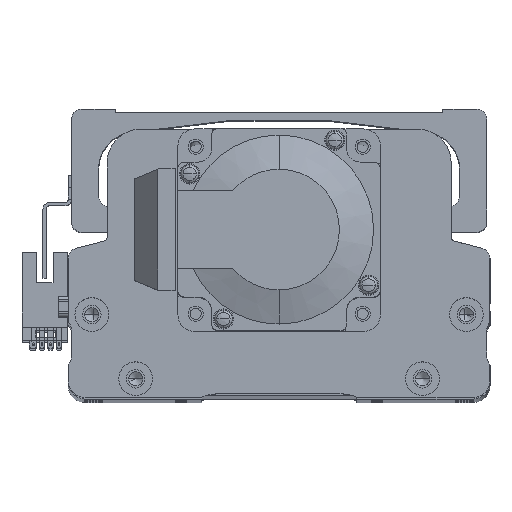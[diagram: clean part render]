
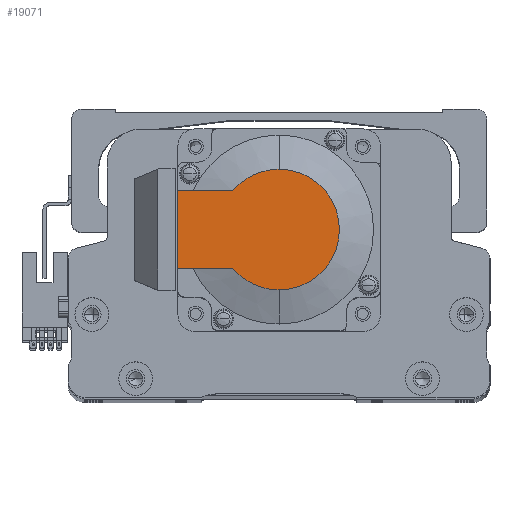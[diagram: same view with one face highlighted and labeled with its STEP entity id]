
A CAD part, top view. The second image highlights one B-rep face of the part: STEP entity #19071.
In plain terms, the highlighted planar face has unit normal (0, 0, 1) as drawn and (-1, 0, 0) by its records, which use the part's own axes.
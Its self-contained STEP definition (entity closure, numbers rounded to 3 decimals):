
#1207 = AXIS2_PLACEMENT_3D ( 'NONE', #45490, #21310, #49519 ) ;
#3587 = CARTESIAN_POINT ( 'NONE',  ( -118.5, 0., 17.881 ) ) ;
#4277 = CARTESIAN_POINT ( 'NONE',  ( -118.5, -8.941, 0. ) ) ;
#5439 = LINE ( 'NONE', #33340, #23163 ) ;
#6229 = CARTESIAN_POINT ( 'NONE',  ( -118.5, -8.941, -11.45 ) ) ;
#6823 = EDGE_CURVE ( 'NONE', #35407, #35357, #7950, .T. ) ;
#7950 = LINE ( 'NONE', #6229, #46500 ) ;
#8337 = DIRECTION ( 'NONE',  ( 0., 0., 1. ) ) ;
#9216 = DIRECTION ( 'NONE',  ( 0., -1., 0. ) ) ;
#10438 = EDGE_CURVE ( 'NONE', #35357, #41304, #43339, .T. ) ;
#12171 = EDGE_CURVE ( 'NONE', #20178, #42090, #41107, .T. ) ;
#12217 = PLANE ( 'NONE',  #49015 ) ;
#12611 = ORIENTED_EDGE ( 'NONE', *, *, #27460, .F. ) ;
#12698 = CARTESIAN_POINT ( 'NONE',  ( -118.5, 0., 0. ) ) ;
#14499 = CARTESIAN_POINT ( 'NONE',  ( -118.5, 30., 25. ) ) ;
#16789 = DIRECTION ( 'NONE',  ( 0., 0., -1. ) ) ;
#17146 = CARTESIAN_POINT ( 'NONE',  ( -118.5, 0., -17.881 ) ) ;
#17597 = EDGE_CURVE ( 'NONE', #22072, #42090, #5439, .T. ) ;
#18309 = EDGE_LOOP ( 'NONE', ( #44910, #38286, #47001, #35580, #21782, #12611 ) ) ;
#19071 = ADVANCED_FACE ( 'NONE', ( #36097 ), #12217, .T. ) ;
#20178 = VERTEX_POINT ( 'NONE', #3587 ) ;
#20376 = AXIS2_PLACEMENT_3D ( 'NONE', #45957, #21786, #49967 ) ;
#21310 = DIRECTION ( 'NONE',  ( -1., 0., 0. ) ) ;
#21782 = ORIENTED_EDGE ( 'NONE', *, *, #17597, .F. ) ;
#21786 = DIRECTION ( 'NONE',  ( -1., 0., 0. ) ) ;
#22072 = VERTEX_POINT ( 'NONE', #39525 ) ;
#22842 = LINE ( 'NONE', #14499, #42996 ) ;
#23163 = VECTOR ( 'NONE', #9216, 1000. ) ;
#26959 = AXIS2_PLACEMENT_3D ( 'NONE', #12698, #40931, #16789 ) ;
#27460 = EDGE_CURVE ( 'NONE', #35407, #22072, #22842, .T. ) ;
#30145 = CARTESIAN_POINT ( 'NONE',  ( -118.5, 13.735, -11.45 ) ) ;
#30317 = CARTESIAN_POINT ( 'NONE',  ( -118.5, 30., -11.45 ) ) ;
#30385 = DIRECTION ( 'NONE',  ( 0., -1., 0. ) ) ;
#32458 = DIRECTION ( 'NONE',  ( -1., 0., 0. ) ) ;
#33340 = CARTESIAN_POINT ( 'NONE',  ( -118.5, 0., 11.45 ) ) ;
#35357 = VERTEX_POINT ( 'NONE', #30145 ) ;
#35407 = VERTEX_POINT ( 'NONE', #30317 ) ;
#35580 = ORIENTED_EDGE ( 'NONE', *, *, #12171, .T. ) ;
#35728 = CIRCLE ( 'NONE', #1207, 17.881 ) ;
#36097 = FACE_OUTER_BOUND ( 'NONE', #18309, .T. ) ;
#38286 = ORIENTED_EDGE ( 'NONE', *, *, #10438, .T. ) ;
#38417 = EDGE_CURVE ( 'NONE', #41304, #20178, #35728, .T. ) ;
#39525 = CARTESIAN_POINT ( 'NONE',  ( -118.5, 30., 11.45 ) ) ;
#40931 = DIRECTION ( 'NONE',  ( -1., 0., 0. ) ) ;
#41107 = CIRCLE ( 'NONE', #20376, 17.881 ) ;
#41304 = VERTEX_POINT ( 'NONE', #17146 ) ;
#41791 = CARTESIAN_POINT ( 'NONE',  ( -118.5, 13.735, 11.45 ) ) ;
#42090 = VERTEX_POINT ( 'NONE', #41791 ) ;
#42996 = VECTOR ( 'NONE', #46816, 1000. ) ;
#43339 = CIRCLE ( 'NONE', #26959, 17.881 ) ;
#44910 = ORIENTED_EDGE ( 'NONE', *, *, #6823, .T. ) ;
#45490 = CARTESIAN_POINT ( 'NONE',  ( -118.5, 0., 0. ) ) ;
#45957 = CARTESIAN_POINT ( 'NONE',  ( -118.5, 0., 0. ) ) ;
#46500 = VECTOR ( 'NONE', #30385, 1000. ) ;
#46816 = DIRECTION ( 'NONE',  ( 0., 0., 1. ) ) ;
#47001 = ORIENTED_EDGE ( 'NONE', *, *, #38417, .T. ) ;
#49015 = AXIS2_PLACEMENT_3D ( 'NONE', #4277, #32458, #8337 ) ;
#49519 = DIRECTION ( 'NONE',  ( 0., 0., -1. ) ) ;
#49967 = DIRECTION ( 'NONE',  ( 0., 0., -1. ) ) ;
